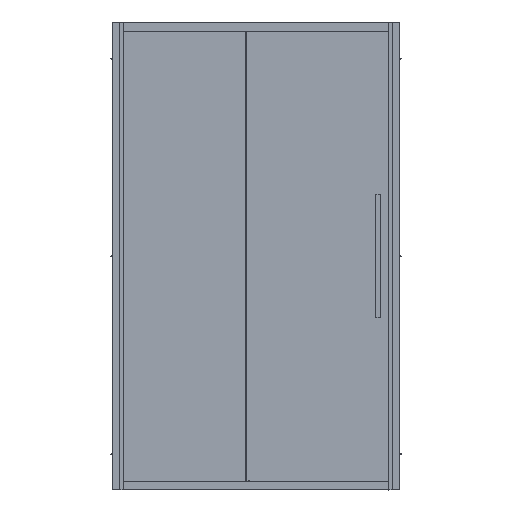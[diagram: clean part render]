
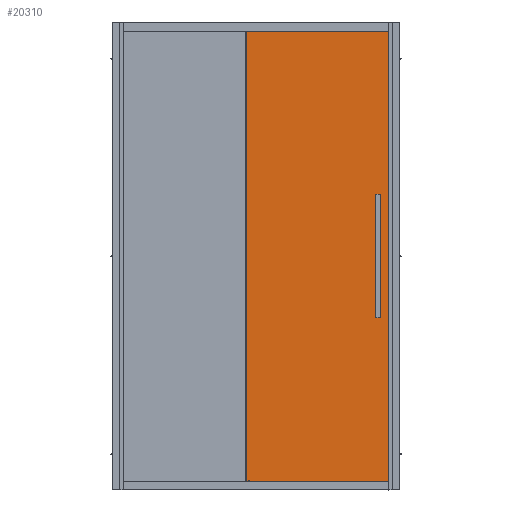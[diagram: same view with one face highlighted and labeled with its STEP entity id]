
A CAD part, front view. The second image highlights one B-rep face of the part: STEP entity #20310.
In plain terms, the highlighted planar face has unit normal (0, -1, 0) as drawn and (0, 0, 1) by its records, which use the part's own axes.
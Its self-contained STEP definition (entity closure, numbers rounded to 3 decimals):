
#19967=DIRECTION('',(0.,-1.,0.));
#19968=VECTOR('',#19967,1934.);
#19969=CARTESIAN_POINT('',(-310.,967.,4.));
#19970=LINE('',#19969,#19968);
#19971=DIRECTION('',(-1.,0.,0.));
#19972=VECTOR('',#19971,620.);
#19973=CARTESIAN_POINT('',(310.,967.,4.));
#19974=LINE('',#19973,#19972);
#19975=DIRECTION('',(0.,1.,0.));
#19976=VECTOR('',#19975,1934.);
#19977=CARTESIAN_POINT('',(310.,-967.,4.));
#19978=LINE('',#19977,#19976);
#19979=DIRECTION('',(1.,0.,0.));
#19980=VECTOR('',#19979,620.);
#19981=CARTESIAN_POINT('',(-310.,-967.,4.));
#19982=LINE('',#19981,#19980);
#19983=CARTESIAN_POINT('',(-250.,953.,4.));
#19984=DIRECTION('',(0.,0.,1.));
#19985=DIRECTION('',(1.,0.,0.));
#19986=AXIS2_PLACEMENT_3D('',#19983,#19984,#19985);
#19988=CARTESIAN_POINT('',(-250.,953.,4.));
#19989=DIRECTION('',(0.,0.,1.));
#19990=DIRECTION('',(-1.,0.,0.));
#19991=AXIS2_PLACEMENT_3D('',#19988,#19989,#19990);
#19993=CARTESIAN_POINT('',(250.,953.,4.));
#19994=DIRECTION('',(0.,0.,1.));
#19995=DIRECTION('',(1.,0.,0.));
#19996=AXIS2_PLACEMENT_3D('',#19993,#19994,#19995);
#19998=CARTESIAN_POINT('',(250.,953.,4.));
#19999=DIRECTION('',(0.,0.,1.));
#20000=DIRECTION('',(-1.,0.,0.));
#20001=AXIS2_PLACEMENT_3D('',#19998,#19999,#20000);
#20003=CARTESIAN_POINT('',(-250.,-953.,4.));
#20004=DIRECTION('',(0.,0.,1.));
#20005=DIRECTION('',(1.,0.,0.));
#20006=AXIS2_PLACEMENT_3D('',#20003,#20004,#20005);
#20008=CARTESIAN_POINT('',(-250.,-953.,4.));
#20009=DIRECTION('',(0.,0.,1.));
#20010=DIRECTION('',(-1.,0.,0.));
#20011=AXIS2_PLACEMENT_3D('',#20008,#20009,#20010);
#20013=CARTESIAN_POINT('',(250.,-953.,4.));
#20014=DIRECTION('',(0.,0.,1.));
#20015=DIRECTION('',(1.,0.,0.));
#20016=AXIS2_PLACEMENT_3D('',#20013,#20014,#20015);
#20018=CARTESIAN_POINT('',(250.,-953.,4.));
#20019=DIRECTION('',(0.,0.,1.));
#20020=DIRECTION('',(-1.,0.,0.));
#20021=AXIS2_PLACEMENT_3D('',#20018,#20019,#20020);
#20023=CARTESIAN_POINT('',(250.,248.,4.));
#20024=DIRECTION('',(0.,0.,1.));
#20025=DIRECTION('',(1.,0.,0.));
#20026=AXIS2_PLACEMENT_3D('',#20023,#20024,#20025);
#20028=CARTESIAN_POINT('',(250.,248.,4.));
#20029=DIRECTION('',(0.,0.,1.));
#20030=DIRECTION('',(-1.,0.,0.));
#20031=AXIS2_PLACEMENT_3D('',#20028,#20029,#20030);
#20033=CARTESIAN_POINT('',(250.,-248.,4.));
#20034=DIRECTION('',(0.,0.,1.));
#20035=DIRECTION('',(1.,0.,0.));
#20036=AXIS2_PLACEMENT_3D('',#20033,#20034,#20035);
#20038=CARTESIAN_POINT('',(250.,-248.,4.));
#20039=DIRECTION('',(0.,0.,1.));
#20040=DIRECTION('',(-1.,0.,0.));
#20041=AXIS2_PLACEMENT_3D('',#20038,#20039,#20040);
#20099=CARTESIAN_POINT('',(-310.,967.,4.));
#20100=CARTESIAN_POINT('',(-310.,-967.,4.));
#20101=VERTEX_POINT('',#20099);
#20102=VERTEX_POINT('',#20100);
#20103=CARTESIAN_POINT('',(310.,-967.,4.));
#20104=VERTEX_POINT('',#20103);
#20105=CARTESIAN_POINT('',(310.,967.,4.));
#20106=VERTEX_POINT('',#20105);
#20115=CARTESIAN_POINT('',(-245.,953.,4.));
#20116=CARTESIAN_POINT('',(-255.,953.,4.));
#20117=VERTEX_POINT('',#20115);
#20118=VERTEX_POINT('',#20116);
#20119=CARTESIAN_POINT('',(255.,953.,4.));
#20120=CARTESIAN_POINT('',(245.,953.,4.));
#20121=VERTEX_POINT('',#20119);
#20122=VERTEX_POINT('',#20120);
#20131=CARTESIAN_POINT('',(-245.,-953.,4.));
#20132=CARTESIAN_POINT('',(-255.,-953.,4.));
#20133=VERTEX_POINT('',#20131);
#20134=VERTEX_POINT('',#20132);
#20135=CARTESIAN_POINT('',(255.,-953.,4.));
#20136=CARTESIAN_POINT('',(245.,-953.,4.));
#20137=VERTEX_POINT('',#20135);
#20138=VERTEX_POINT('',#20136);
#20147=CARTESIAN_POINT('',(256.,248.,4.));
#20148=VERTEX_POINT('',#20147);
#20149=CARTESIAN_POINT('',(244.,248.,4.));
#20150=VERTEX_POINT('',#20149);
#20151=CARTESIAN_POINT('',(256.,-248.,4.));
#20152=VERTEX_POINT('',#20151);
#20153=CARTESIAN_POINT('',(244.,-248.,4.));
#20154=VERTEX_POINT('',#20153);
#20263=CARTESIAN_POINT('',(0.,0.,4.));
#20264=DIRECTION('',(0.,0.,1.));
#20265=DIRECTION('',(1.,0.,0.));
#20266=AXIS2_PLACEMENT_3D('',#20263,#20264,#20265);
#20267=PLANE('',#20266);
#20268=ORIENTED_EDGE('',*,*,#20215,.F.);
#20269=ORIENTED_EDGE('',*,*,#20230,.F.);
#20270=ORIENTED_EDGE('',*,*,#20244,.F.);
#20271=ORIENTED_EDGE('',*,*,#20257,.F.);
#20272=EDGE_LOOP('',(#20268,#20269,#20270,#20271));
#20273=FACE_OUTER_BOUND('',#20272,.F.);
#20275=ORIENTED_EDGE('',*,*,#20274,.T.);
#20277=ORIENTED_EDGE('',*,*,#20276,.T.);
#20278=EDGE_LOOP('',(#20275,#20277));
#20279=FACE_BOUND('',#20278,.F.);
#20281=ORIENTED_EDGE('',*,*,#20280,.T.);
#20283=ORIENTED_EDGE('',*,*,#20282,.T.);
#20284=EDGE_LOOP('',(#20281,#20283));
#20285=FACE_BOUND('',#20284,.F.);
#20287=ORIENTED_EDGE('',*,*,#20286,.T.);
#20289=ORIENTED_EDGE('',*,*,#20288,.T.);
#20290=EDGE_LOOP('',(#20287,#20289));
#20291=FACE_BOUND('',#20290,.F.);
#20293=ORIENTED_EDGE('',*,*,#20292,.T.);
#20295=ORIENTED_EDGE('',*,*,#20294,.T.);
#20296=EDGE_LOOP('',(#20293,#20295));
#20297=FACE_BOUND('',#20296,.F.);
#20299=ORIENTED_EDGE('',*,*,#20298,.T.);
#20301=ORIENTED_EDGE('',*,*,#20300,.T.);
#20302=EDGE_LOOP('',(#20299,#20301));
#20303=FACE_BOUND('',#20302,.F.);
#20305=ORIENTED_EDGE('',*,*,#20304,.T.);
#20307=ORIENTED_EDGE('',*,*,#20306,.T.);
#20308=EDGE_LOOP('',(#20305,#20307));
#20309=FACE_BOUND('',#20308,.F.);
#20310=ADVANCED_FACE('',(#20273,#20279,#20285,#20291,#20297,#20303,#20309),
#20267,.T.);
#19987=CIRCLE('',#19986,5.);
#19992=CIRCLE('',#19991,5.);
#19997=CIRCLE('',#19996,5.);
#20002=CIRCLE('',#20001,5.);
#20007=CIRCLE('',#20006,5.);
#20012=CIRCLE('',#20011,5.);
#20017=CIRCLE('',#20016,5.);
#20022=CIRCLE('',#20021,5.);
#20027=CIRCLE('',#20026,6.);
#20032=CIRCLE('',#20031,6.);
#20037=CIRCLE('',#20036,6.);
#20042=CIRCLE('',#20041,6.);
#20215=EDGE_CURVE('',#20101,#20102,#19970,.T.);
#20230=EDGE_CURVE('',#20106,#20101,#19974,.T.);
#20244=EDGE_CURVE('',#20104,#20106,#19978,.T.);
#20257=EDGE_CURVE('',#20102,#20104,#19982,.T.);
#20274=EDGE_CURVE('',#20117,#20118,#19987,.T.);
#20276=EDGE_CURVE('',#20118,#20117,#19992,.T.);
#20280=EDGE_CURVE('',#20121,#20122,#19997,.T.);
#20282=EDGE_CURVE('',#20122,#20121,#20002,.T.);
#20286=EDGE_CURVE('',#20133,#20134,#20007,.T.);
#20288=EDGE_CURVE('',#20134,#20133,#20012,.T.);
#20292=EDGE_CURVE('',#20137,#20138,#20017,.T.);
#20294=EDGE_CURVE('',#20138,#20137,#20022,.T.);
#20298=EDGE_CURVE('',#20148,#20150,#20027,.T.);
#20300=EDGE_CURVE('',#20150,#20148,#20032,.T.);
#20304=EDGE_CURVE('',#20152,#20154,#20037,.T.);
#20306=EDGE_CURVE('',#20154,#20152,#20042,.T.);
